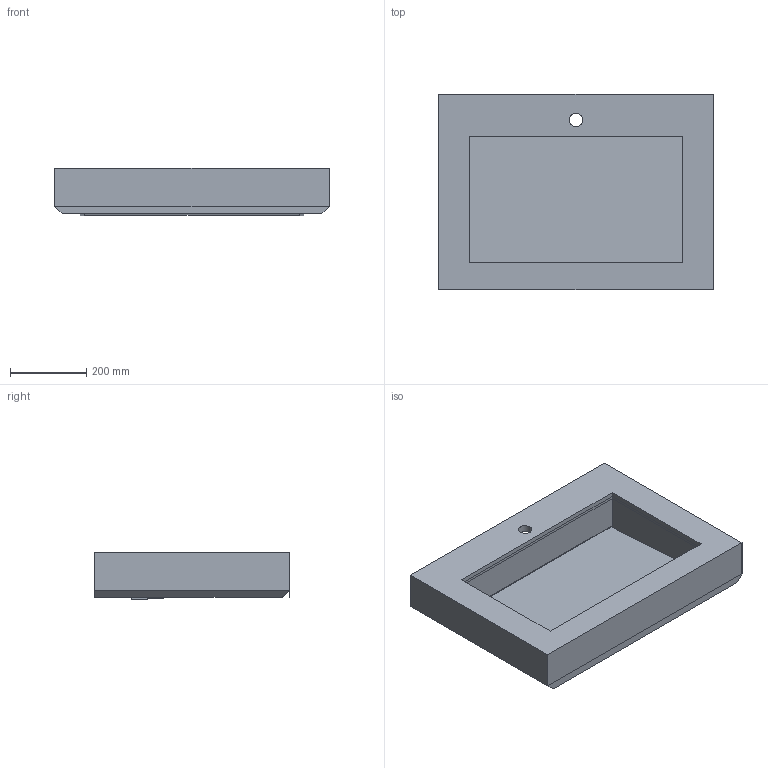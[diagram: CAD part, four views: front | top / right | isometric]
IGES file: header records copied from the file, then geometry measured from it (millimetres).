
Start section: Data from Parasolid IGES Translator 19.0.9, Copyright(c) 2006 Siemens PL M Software. All Rights Reserved.
Global section: file name: noorth-top-H 11,9 D 51,3 W 72_4965.igs; native system: By Siemens PLM Incorporated; preprocessor: XPlus GENERIC/IGES 19.0.9; author: Noname; organization: Noname; date: 20200603.113931; units: metre
Bounding box: 720 x 512 x 125.73 mm (x, y, z)
Volume: 11081746.9 mm3; surface area: 1563248.3 mm2
Topology: 2 solids, 2 shells, 40 faces, 107 edges, 70 vertices
Faces by surface type: plane 39, cylinder 1
Full cylindrical faces by diameter (mm): 34.9 x1
